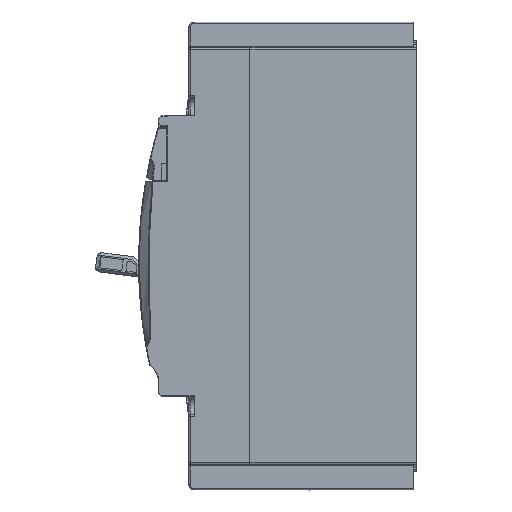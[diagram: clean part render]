
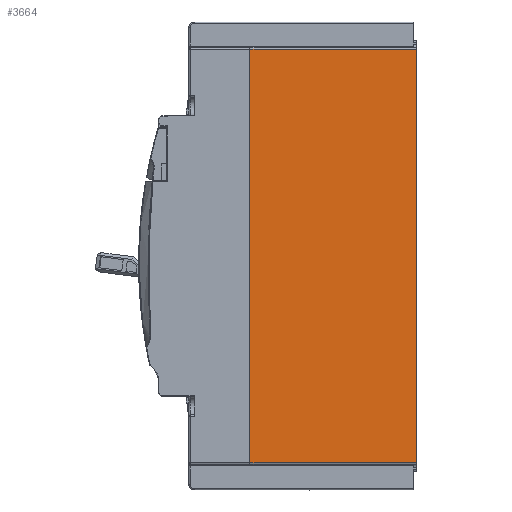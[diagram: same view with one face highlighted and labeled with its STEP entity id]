
A CAD part, left-side view. The second image highlights one B-rep face of the part: STEP entity #3664.
In plain terms, the highlighted planar face has unit normal (-1, 0, 0).
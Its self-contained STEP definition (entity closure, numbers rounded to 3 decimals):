
#14=DIRECTION('',(0.,0.,1.));
#15=VECTOR('',#14,149.);
#16=CARTESIAN_POINT('',(-46.25,0.,-74.5));
#17=LINE('',#16,#15);
#238=DIRECTION('',(0.,0.,1.));
#239=VECTOR('',#238,149.);
#240=CARTESIAN_POINT('',(-46.25,60.,-74.5));
#241=LINE('',#240,#239);
#242=DIRECTION('',(0.,-1.,0.));
#243=VECTOR('',#242,60.);
#244=CARTESIAN_POINT('',(-46.25,60.,-74.5));
#245=LINE('',#244,#243);
#2276=DIRECTION('',(0.,1.,0.));
#2277=VECTOR('',#2276,60.);
#2278=CARTESIAN_POINT('',(-46.25,0.,74.5));
#2279=LINE('',#2278,#2277);
#2698=CARTESIAN_POINT('',(-46.25,0.,-74.5));
#2699=CARTESIAN_POINT('',(-46.25,0.,74.5));
#2700=VERTEX_POINT('',#2698);
#2701=VERTEX_POINT('',#2699);
#2946=CARTESIAN_POINT('',(-46.25,60.,74.5));
#2947=VERTEX_POINT('',#2946);
#2948=CARTESIAN_POINT('',(-46.25,60.,-74.5));
#2949=VERTEX_POINT('',#2948);
#3650=CARTESIAN_POINT('',(-46.25,0.,-77.5));
#3651=DIRECTION('',(-1.,0.,0.));
#3652=DIRECTION('',(0.,0.,1.));
#3653=AXIS2_PLACEMENT_3D('',#3650,#3651,#3652);
#3654=PLANE('',#3653);
#3655=ORIENTED_EDGE('',*,*,#3535,.F.);
#3657=ORIENTED_EDGE('',*,*,#3656,.F.);
#3659=ORIENTED_EDGE('',*,*,#3658,.T.);
#3661=ORIENTED_EDGE('',*,*,#3660,.F.);
#3662=EDGE_LOOP('',(#3655,#3657,#3659,#3661));
#3663=FACE_OUTER_BOUND('',#3662,.F.);
#3664=ADVANCED_FACE('',(#3663),#3654,.T.);
#3535=EDGE_CURVE('',#2700,#2701,#17,.T.);
#3656=EDGE_CURVE('',#2949,#2700,#245,.T.);
#3658=EDGE_CURVE('',#2949,#2947,#241,.T.);
#3660=EDGE_CURVE('',#2701,#2947,#2279,.T.);
